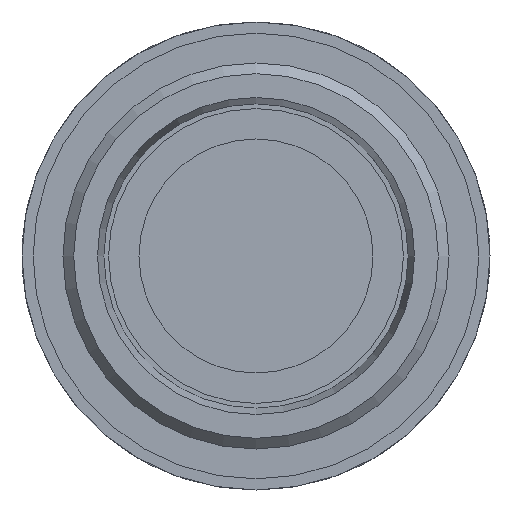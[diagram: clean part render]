
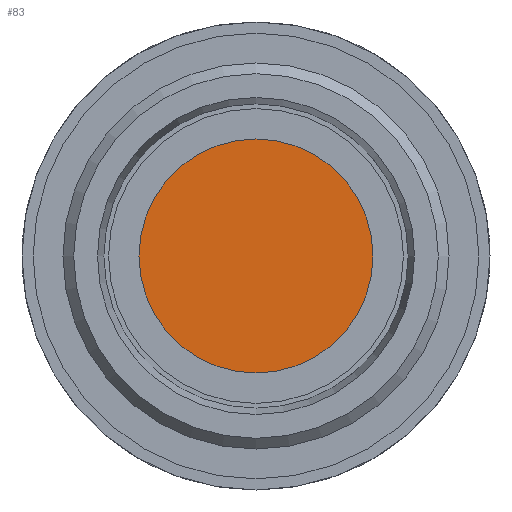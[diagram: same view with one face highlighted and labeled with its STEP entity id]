
A CAD part, left-side view. The second image highlights one B-rep face of the part: STEP entity #83.
In plain terms, the highlighted planar face has unit normal (-1, 0, 0).
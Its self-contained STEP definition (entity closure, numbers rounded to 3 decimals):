
#83 = ADVANCED_FACE( '', ( #127 ), #128, .T. );
#127 = FACE_OUTER_BOUND( '', #209, .T. );
#128 = PLANE( '', #210 );
#209 = EDGE_LOOP( '', ( #330 ) );
#210 = AXIS2_PLACEMENT_3D( '', #331, #332, #333 );
#330 = ORIENTED_EDGE( '', *, *, #504, .F. );
#331 = CARTESIAN_POINT( '', ( 16.75, 10., 0. ) );
#332 = DIRECTION( '', ( -1., 0., 0. ) );
#333 = DIRECTION( '', ( 0., 0., 1. ) );
#504 = EDGE_CURVE( '', #582, #582, #583, .T. );
#582 = VERTEX_POINT( '', #776 );
#583 = CIRCLE( '', #777, 10. );
#776 = CARTESIAN_POINT( '', ( 16.75, 0., -10. ) );
#777 = AXIS2_PLACEMENT_3D( '', #868, #869, #870 );
#868 = CARTESIAN_POINT( '', ( 16.75, 0., 0. ) );
#869 = DIRECTION( '', ( 1., 0., 0. ) );
#870 = DIRECTION( '', ( 0., 0., -1. ) );
